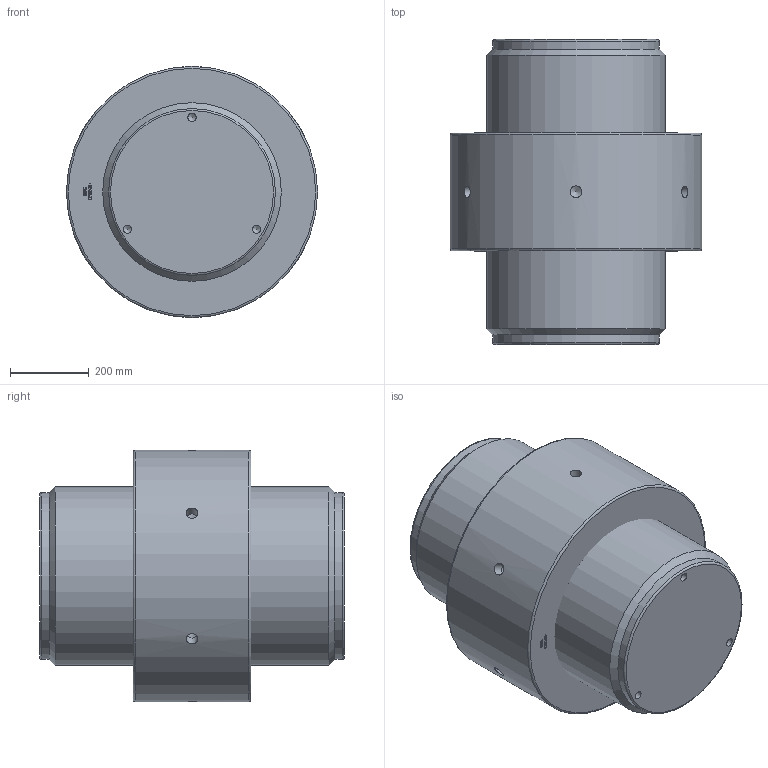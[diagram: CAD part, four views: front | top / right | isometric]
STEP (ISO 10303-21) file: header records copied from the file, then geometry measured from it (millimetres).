
FILE_DESCRIPTION(/* description */ (''),/* implementation_level */ '2;1');
FILE_NAME(/* name */ 'F:\Clienti LS\Redaelli\CYT\CYT\ARRNGEMENT\CYT148 61 061 0.stp',/* time_stamp */ '2021-05-09T09:00:44+02:00',/* author */ ('ranca'),/* organization */ (''),/* preprocessor_version */ 'ST-DEVELOPER v16.13',/* originating_system */ 'Autodesk Inventor 2018',/* authorisation */ '');
FILE_SCHEMA (('AUTOMOTIVE_DESIGN { 1 0 10303 214 3 1 1 }'));
Length unit declared in the file: millimetre
Products named in the file (3): CYT012-61-061-0; CYT012-61-061-0_1; CYT012-61-061-0_DADO
Assembly tree (2 placements, depth 2):
  CYT012-61-061-0
    CYT012-61-061-0_1
    CYT012-61-061-0_DADO
Bounding box: 640 x 777 x 640 mm (x, y, z)
Volume: 173861418.6 mm3; surface area: 2773860.9 mm2
Topology: 2 solids, 2 shells, 350 faces, 950 edges, 632 vertices
Faces by surface type: bspline 164, plane 157, cylinder 14, cone 11, torus 4
Full cylindrical faces by diameter (mm): 20.752 x3, 30 x6, 425 x2, 448.505 x1, 455 x1, 640 x1
Entity records: 11796 total; most frequent: CARTESIAN_POINT 4218, ORIENTED_EDGE 1810, DIRECTION 973, EDGE_CURVE 905, VERTEX_POINT 616, LINE 539, VECTOR 539, EDGE_LOOP 409
